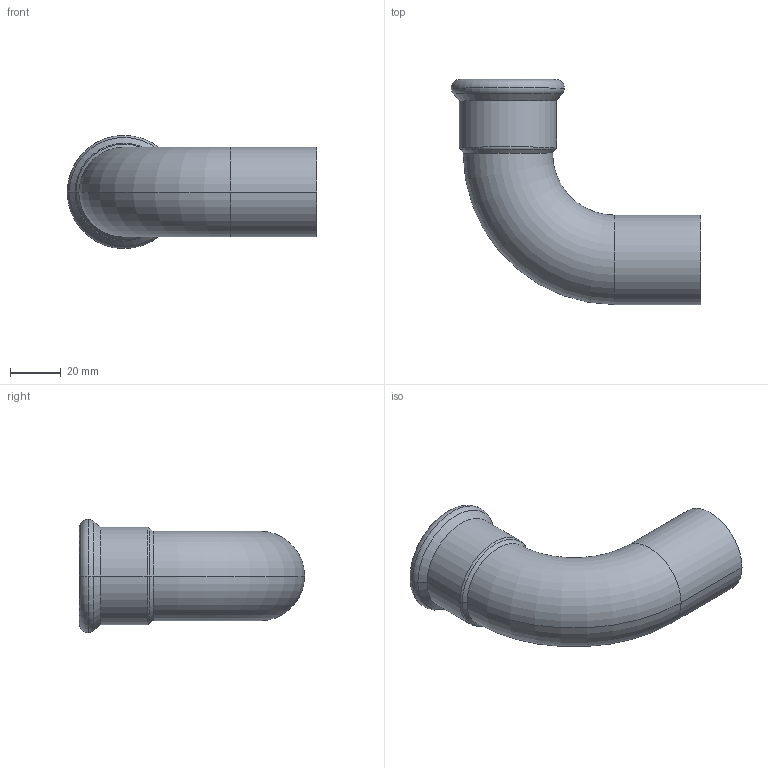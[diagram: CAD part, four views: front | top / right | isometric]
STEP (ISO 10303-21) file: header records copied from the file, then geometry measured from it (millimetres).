
FILE_DESCRIPTION(('CoCreate Modeling STEP Export'),'2;1');
FILE_NAME('C1411 35x35.stp','2014-11-11T16:33:39',(''),(''),'CoCreate Modeling STEP processor for AP214 (Solid Model)','CoCreate Modeling 17.00A 17-Jun-2010 (C) Parametric Technology GmbH','');
FILE_SCHEMA(('AUTOMOTIVE_DESIGN { 1 0 10303 214 1 1 1 1 }'));
Length unit declared in the file: millimetre
Products named in the file (2): C1411_35x35
Assembly tree (1 placements, depth 2):
  C1411_35x35
    C1411_35x35
Bounding box: 98.17 x 88.59 x 44.55 mm (x, y, z)
Volume: 24433.5 mm3; surface area: 28891.5 mm2
Topology: 1 solids, 1 shells, 30 faces, 62 edges, 36 vertices
Faces by surface type: cylinder 12, torus 10, plane 4, cone 4
Entity records: 698 total; most frequent: ORIENTED_EDGE 124, DIRECTION 110, CARTESIAN_POINT 99, EDGE_CURVE 62, AXIS2_PLACEMENT_3D 47, VERTEX_POINT 36, EDGE_LOOP 34, FACE_OUTER_BOUND 30
